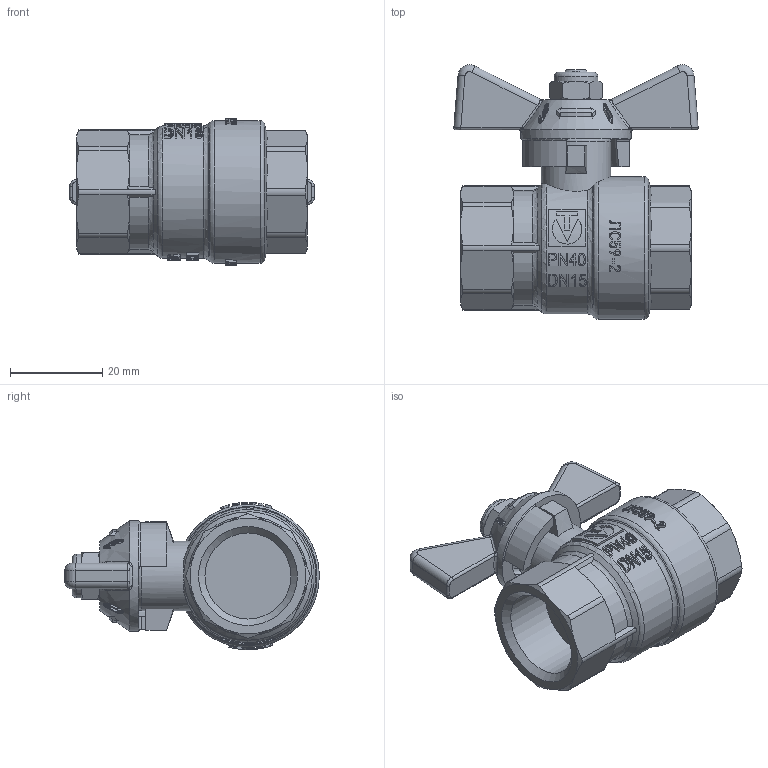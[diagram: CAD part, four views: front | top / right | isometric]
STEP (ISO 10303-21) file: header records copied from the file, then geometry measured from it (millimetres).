
FILE_DESCRIPTION(('STEP AP203'), '1');
FILE_NAME('VT.217S.N.04', '', ('UNSPECIFIED'), ('UNSPECIFIED'), 'C3D Converter', 'C3D Toolkit', '');
FILE_SCHEMA(('CONFIG_CONTROL_DESIGN'));
Length unit declared in the file: millimetre
Products named in the file (1): ВР.491812.050.000 СБ
Bounding box: 52.91 x 55.13 x 31.9 mm (x, y, z)
Volume: 30565 mm3; surface area: 11159.4 mm2
Topology: 1 solids, 1 shells, 1668 faces, 4728 edges, 3116 vertices
Faces by surface type: plane 1342, cylinder 109, extrusion 108, cone 62, bspline 28, torus 19
Full cylindrical faces by diameter (mm): 6 x1, 8 x1, 9.5 x1, 10.5 x1, 12 x1, 15 x1, 18.632 x2, 24 x1, 30.9 x1
Entity records: 61956 total; most frequent: CARTESIAN_POINT 25605, ORIENTED_EDGE 9396, DIRECTION 5698, EDGE_CURVE 4698, VERTEX_POINT 3115, AXIS2_PLACEMENT_3D 1922, VECTOR 1854, EDGE_LOOP 1755
